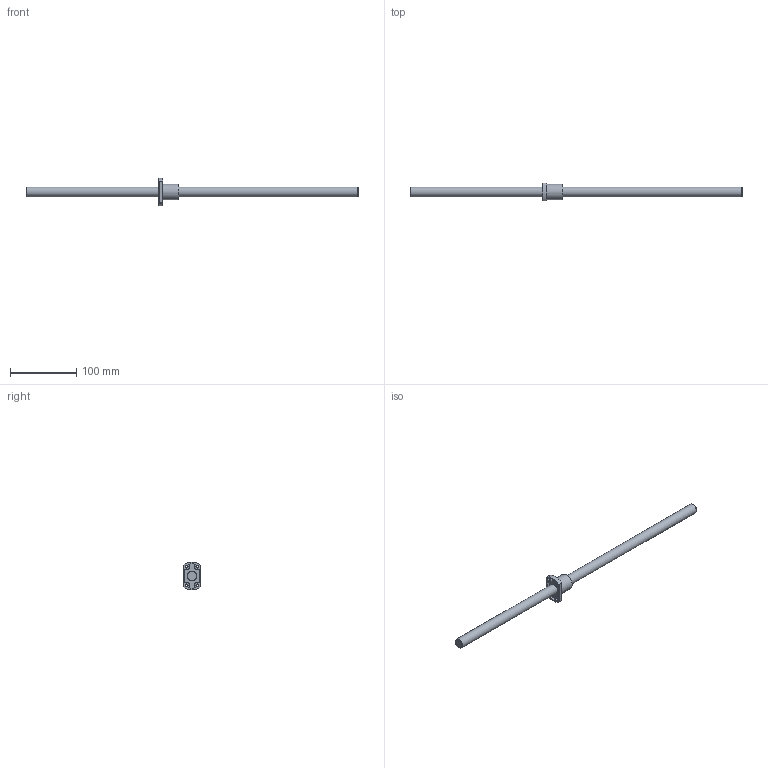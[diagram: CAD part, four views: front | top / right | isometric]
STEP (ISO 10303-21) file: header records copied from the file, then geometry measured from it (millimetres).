
FILE_DESCRIPTION((''),'2;1');
FILE_NAME('D:\製品 (図面)\カタログ用3D\ネジ関連\STEP形式\MSK\MSK15.stp','2010-06-02T14:38:20',('Tsuchiya'),(''),'Autodesk Inventor 10','Autodesk Inventor 10','');
FILE_SCHEMA(('AUTOMOTIVE_DESIGN { 1 0 10303 214 1 1 1 1 }'));
Length unit declared in the file: millimetre
Products named in the file (3): MSK15; MSK151; MSK152
Assembly tree (2 placements, depth 2):
  MSK15
    MSK151
    MSK152
Bounding box: 500 x 27 x 42 mm (x, y, z)
Volume: 98380.7 mm3; surface area: 29992.3 mm2
Topology: 2 solids, 2 shells, 31 faces, 78 edges, 53 vertices
Faces by surface type: cylinder 15, plane 14, cone 2
Full cylindrical faces by diameter (mm): 4.5 x4, 15 x2, 24 x1
Entity records: 962 total; most frequent: DIRECTION 176, CARTESIAN_POINT 148, ORIENTED_EDGE 128, AXIS2_PLACEMENT_3D 76, EDGE_CURVE 64, EDGE_LOOP 52, VERTEX_POINT 48, CIRCLE 32
